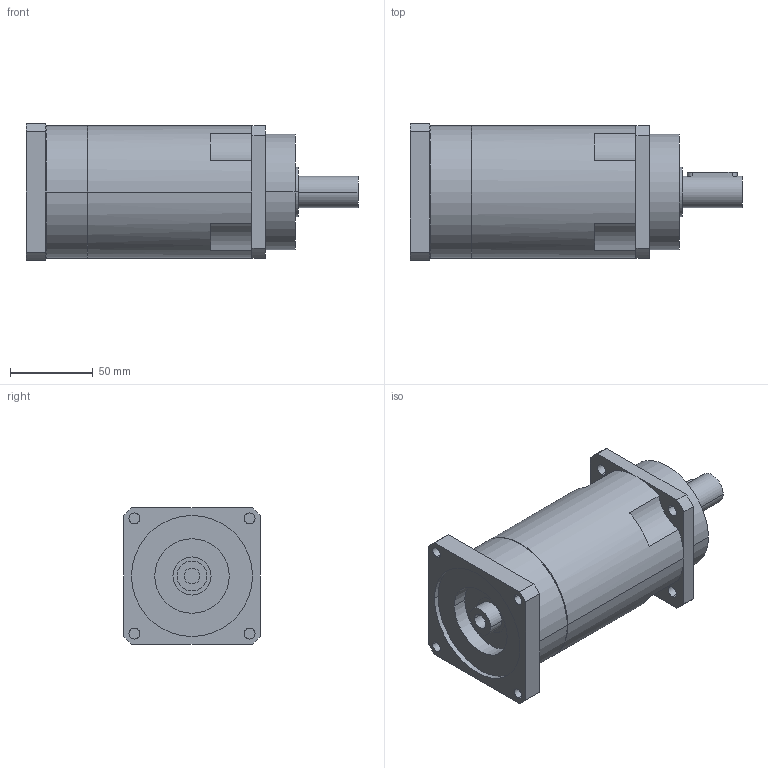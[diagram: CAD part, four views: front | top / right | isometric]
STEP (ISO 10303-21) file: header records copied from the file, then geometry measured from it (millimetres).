
FILE_DESCRIPTION(('CoCreate Modeling STEP Export'),'2;1');
FILE_NAME('GPR100_ig-48-64-80-100-120-144-180-216_19_B5_9.52_P05.stp','2014-08-26T11:57:39',(''),(''),'CoCreate Modeling STEP processor for AP214 (Solid Model)','CoCreate Modeling 16.00C 25-Feb-2009 (C) Parametric Technology GmbH','');
FILE_SCHEMA(('AUTOMOTIVE_DESIGN { 1 0 10303 214 1 1 1 1 }'));
Length unit declared in the file: millimetre
Products named in the file (2): GPR100_ig-48-64-80-100-120-144-180-216_19_B5_9.52_P05
Assembly tree (1 placements, depth 2):
  GPR100_ig-48-64-80-100-120-144-180-216_19_B5_9.52_P05
    GPR100_ig-48-64-80-100-120-144-180-216_19_B5_9.52_P05
Bounding box: 200.4 x 82.5 x 82.5 mm (x, y, z)
Volume: 800318.2 mm3; surface area: 65815.9 mm2
Topology: 1 solids, 1 shells, 89 faces, 244 edges, 166 vertices
Faces by surface type: cylinder 52, plane 31, cone 6
Entity records: 2597 total; most frequent: ORIENTED_EDGE 484, CARTESIAN_POINT 471, DIRECTION 386, EDGE_CURVE 242, VERTEX_POINT 166, AXIS2_PLACEMENT_3D 145, EDGE_LOOP 116, VECTOR 96
